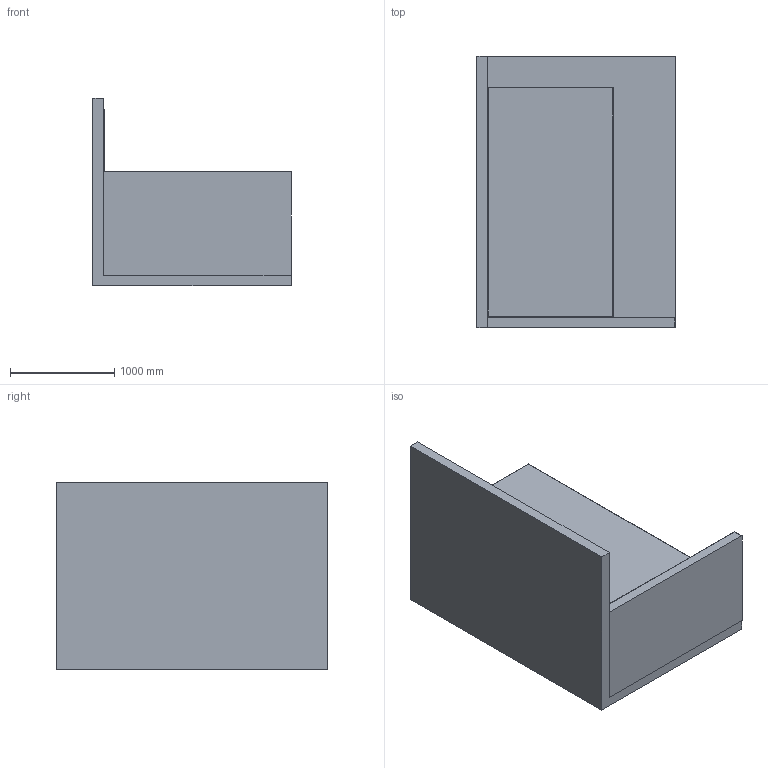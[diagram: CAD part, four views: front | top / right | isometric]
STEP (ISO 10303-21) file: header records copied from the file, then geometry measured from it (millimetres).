
FILE_DESCRIPTION(('Creo Elements/Direct Modeling STEP Export'),'2;1');
FILE_NAME('G:/cad/Duscholux/19.004_Konfigurator/Daten/Walk-In/Walk-In_1200x2000.stp','2019-03-25T14:33:13',(''),(''),'Creo Elements/Direct Modeling STEP processor for AP214 (Solid Model)','Creo Elements/Direct Modeling 19.0G 27-Nov-2017 (C) Parametric Technology GmbH','');
FILE_SCHEMA(('AUTOMOTIVE_DESIGN { 1 0 10303 214 1 1 1 1 }'));
Length unit declared in the file: millimetre
Products named in the file (13): 10010.50I_Glas_Plan_1500x2198x10; 520367.02_2500_Wandprofil_Unterputz.1; 250349.01.21980000; 520368_FÜHRUNGSSCHIENE; 520368.501.0_Führungsschiene_mit_Klebeband.1; BODEN.1.1.1; FLIESE_30x60cm.1.2; FLIESE_30x60cm.1.1.2; FLIESE_30x60cm.1.1.1.2; FLIESE_30x60cm.1.1.1.1.1; WAND.1_445.1.1; Umgebung; Walk-In_1200x2000
Assembly tree (12 placements, depth 3):
  Walk-In_1200x2000
    Umgebung
      WAND.1_445.1.1
      FLIESE_30x60cm.1.1.1.1.1
      FLIESE_30x60cm.1.1.1.2
      FLIESE_30x60cm.1.1.2
      FLIESE_30x60cm.1.2
      BODEN.1.1.1
    520368.501.0_Führungsschiene_mit_Klebeband.1
      520368_FÜHRUNGSSCHIENE
    250349.01.21980000
    520367.02_2500_Wandprofil_Unterputz.1
    10010.50I_Glas_Plan_1500x2198x10
Bounding box: 1900 x 2600 x 1800 mm (x, y, z)
Volume: 1149774843.6 mm3; surface area: 31276457.3 mm2
Topology: 10 solids, 10 shells, 516 faces, 1478 edges, 981 vertices
Faces by surface type: plane 485, cylinder 30, sphere 1
Entity records: 17289 total; most frequent: CARTESIAN_POINT 2984, ORIENTED_EDGE 2954, DIRECTION 2591, EDGE_CURVE 1477, VECTOR 1415, LINE 1415, VERTEX_POINT 981, EDGE_LOOP 720
